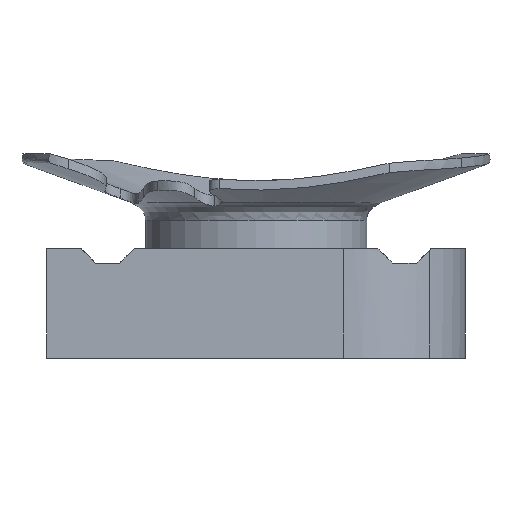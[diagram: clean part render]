
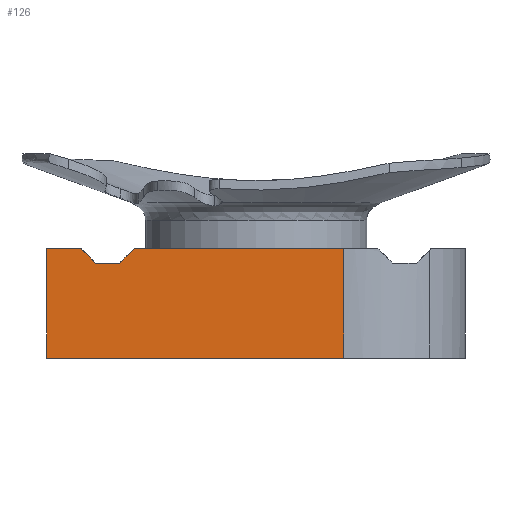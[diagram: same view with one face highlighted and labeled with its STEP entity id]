
A CAD part, front view. The second image highlights one B-rep face of the part: STEP entity #126.
In plain terms, the highlighted planar face has unit normal (0, -1, 0).
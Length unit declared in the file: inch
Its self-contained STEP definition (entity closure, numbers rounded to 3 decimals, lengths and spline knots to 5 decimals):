
#126=ADVANCED_FACE('',(#306),#307,.T.);
#306=FACE_OUTER_BOUND('',#656,.T.);
#307=PLANE('',#657);
#656=EDGE_LOOP('',(#1317,#1318,#1319,#1320,#1321,#1322,#1323,#1324));
#657=AXIS2_PLACEMENT_3D('',#1325,#1326,#1327);
#1317=ORIENTED_EDGE('',*,*,#1895,.T.);
#1318=ORIENTED_EDGE('',*,*,#1896,.T.);
#1319=ORIENTED_EDGE('',*,*,#1897,.T.);
#1320=ORIENTED_EDGE('',*,*,#1898,.F.);
#1321=ORIENTED_EDGE('',*,*,#1899,.T.);
#1322=ORIENTED_EDGE('',*,*,#1878,.T.);
#1323=ORIENTED_EDGE('',*,*,#1900,.F.);
#1324=ORIENTED_EDGE('',*,*,#1901,.F.);
#1325=CARTESIAN_POINT('',(0.0,0.,0.25591));
#1326=DIRECTION('',(0.0,-1.0,0.0));
#1327=DIRECTION('',(0.0,0.0,-1.0));
#1878=EDGE_CURVE('',#2209,#2206,#2210,.T.);
#1895=EDGE_CURVE('',#2236,#2237,#2238,.T.);
#1896=EDGE_CURVE('',#2237,#2239,#2240,.T.);
#1897=EDGE_CURVE('',#2239,#2241,#2242,.T.);
#1898=EDGE_CURVE('',#2243,#2241,#2244,.T.);
#1899=EDGE_CURVE('',#2243,#2209,#2245,.T.);
#1900=EDGE_CURVE('',#2246,#2206,#2247,.T.);
#1901=EDGE_CURVE('',#2236,#2246,#2248,.T.);
#2206=VERTEX_POINT('',#3026);
#2209=VERTEX_POINT('',#3029);
#2210=LINE('',#3030,#3031);
#2236=VERTEX_POINT('',#3075);
#2237=VERTEX_POINT('',#3076);
#2238=LINE('',#3077,#3078);
#2239=VERTEX_POINT('',#3079);
#2240=LINE('',#3080,#3081);
#2241=VERTEX_POINT('',#3082);
#2242=LINE('',#3083,#3084);
#2243=VERTEX_POINT('',#3085);
#2244=LINE('',#3086,#3087);
#2245=LINE('',#3088,#3089);
#2246=VERTEX_POINT('',#3090);
#2247=LINE('',#3091,#3092);
#2248=LINE('',#3093,#3094);
#3026=CARTESIAN_POINT('',(0.96063,0.,-0.09843));
#3029=CARTESIAN_POINT('',(0.0,0.,-0.09843));
#3030=CARTESIAN_POINT('',(0.0,0.,-0.09843));
#3031=VECTOR('',#3820,0.3937);
#3075=CARTESIAN_POINT('',(0.28346,0.,0.25591));
#3076=CARTESIAN_POINT('',(0.23622,0.,0.20866));
#3077=CARTESIAN_POINT('',(0.18898,0.,0.16142));
#3078=VECTOR('',#3844,0.3937);
#3079=CARTESIAN_POINT('',(0.15748,0.,0.20866));
#3080=CARTESIAN_POINT('',(0.07874,0.,0.20866));
#3081=VECTOR('',#3845,0.3937);
#3082=CARTESIAN_POINT('',(0.11024,0.,0.25591));
#3083=CARTESIAN_POINT('',(0.08268,0.,0.28346));
#3084=VECTOR('',#3846,0.3937);
#3085=CARTESIAN_POINT('',(0.0,0.,0.25591));
#3086=CARTESIAN_POINT('',(0.0,0.,0.25591));
#3087=VECTOR('',#3847,0.3937);
#3088=CARTESIAN_POINT('',(0.0,0.,0.25591));
#3089=VECTOR('',#3848,0.3937);
#3090=CARTESIAN_POINT('',(0.96063,0.,0.25591));
#3091=CARTESIAN_POINT('',(0.96063,0.,0.25591));
#3092=VECTOR('',#3849,0.3937);
#3093=CARTESIAN_POINT('',(0.0,0.,0.25591));
#3094=VECTOR('',#3850,0.3937);
#3820=DIRECTION('',(1.0,0.0,0.0));
#3844=DIRECTION('',(-0.707,0.0,-0.707));
#3845=DIRECTION('',(-1.0,0.0,0.));
#3846=DIRECTION('',(-0.707,-0.0,0.707));
#3847=DIRECTION('',(1.0,0.0,0.0));
#3848=DIRECTION('',(0.0,0.0,-1.0));
#3849=DIRECTION('',(0.0,0.0,-1.0));
#3850=DIRECTION('',(1.0,0.0,0.0));
